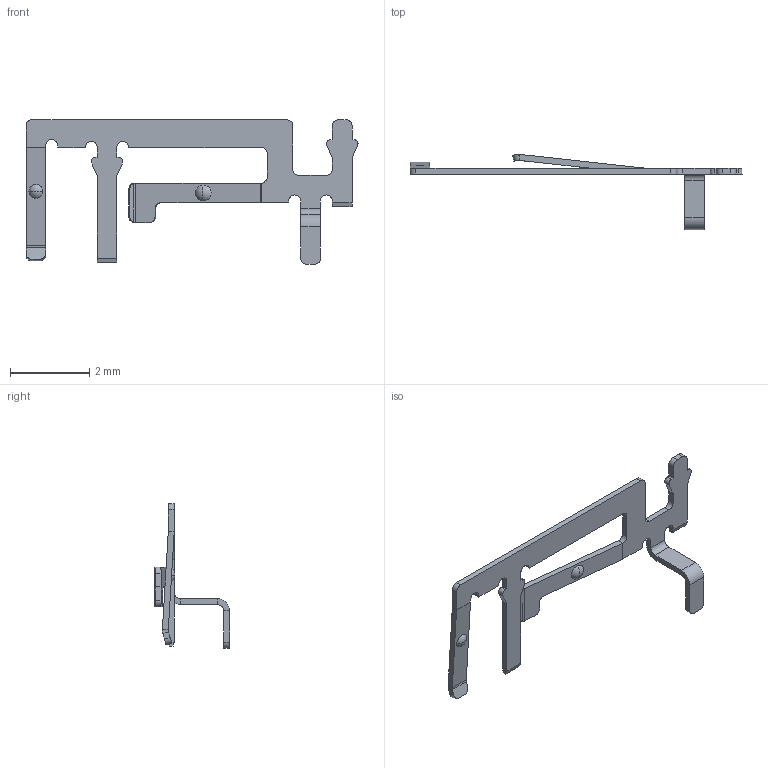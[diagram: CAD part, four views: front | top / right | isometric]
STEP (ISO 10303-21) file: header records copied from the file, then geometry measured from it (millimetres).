
FILE_DESCRIPTION((''),'2;1');
FILE_NAME('T-DSC20-300X00_1_PRT','2008-06-30T',('GRA'),(''),'PRO/ENGINEER BY PARAMETRIC TECHNOLOGY CORPORATION, 2006170','PRO/ENGINEER BY PARAMETRIC TECHNOLOGY CORPORATION, 2006170','');
FILE_SCHEMA(('CONFIG_CONTROL_DESIGN'));
Length unit declared in the file: millimetre
Products named in the file (1): T-DSC20-300X00_1_PRT
Bounding box: 8.4 x 1.9 x 3.65 mm (x, y, z)
Volume: 2.1 mm3; surface area: 34.8 mm2
Topology: 1 solids, 1 shells, 123 faces, 317 edges, 192 vertices
Faces by surface type: plane 81, cylinder 34, sphere 8
Entity records: 3681 total; most frequent: CARTESIAN_POINT 650, DIRECTION 631, ORIENTED_EDGE 618, EDGE_CURVE 309, VECTOR 221, LINE 221, AXIS2_PLACEMENT_3D 205, VERTEX_POINT 192
